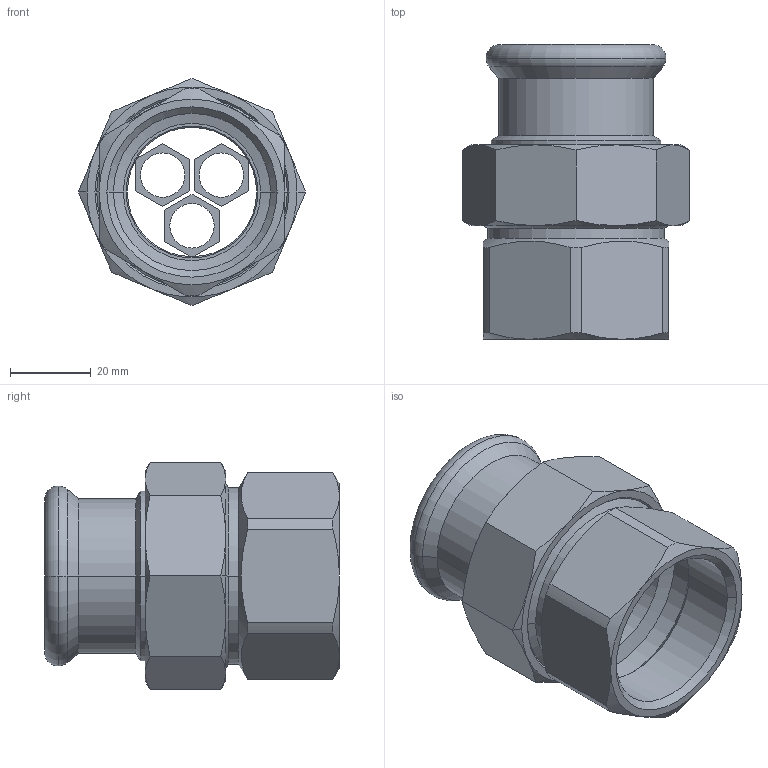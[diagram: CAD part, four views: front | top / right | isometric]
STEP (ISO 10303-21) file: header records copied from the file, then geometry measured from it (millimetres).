
FILE_DESCRIPTION(('OneSpaceDesigner STEP Export'),'2;1');
FILE_NAME('R2738 35xRp1 1-4.stp','2010-06-10T14:26:35',(''),(''),'OneSpace Designer STEP processor for AP214 (Solid Model)','OneSpace Modeling 15.00A 14-Mar-2007 (C) CoCreate Software GmbH','');
FILE_SCHEMA(('AUTOMOTIVE_DESIGN { 1 0 10303 214 1 1 1 1 }'));
Length unit declared in the file: millimetre
Products named in the file (2): R2738_35xRp1_1-4
Assembly tree (1 placements, depth 2):
  R2738_35xRp1_1-4
    R2738_35xRp1_1-4
Bounding box: 56.28 x 73 x 56.28 mm (x, y, z)
Volume: 48534.8 mm3; surface area: 26929.3 mm2
Topology: 1 solids, 1 shells, 149 faces, 343 edges, 204 vertices
Faces by surface type: cone 54, plane 48, cylinder 39, torus 8
Entity records: 5615 total; most frequent: CARTESIAN_POINT 2743, ORIENTED_EDGE 686, DIRECTION 431, EDGE_CURVE 343, VERTEX_POINT 204, EDGE_LOOP 165, VECTOR 151, LINE 151
